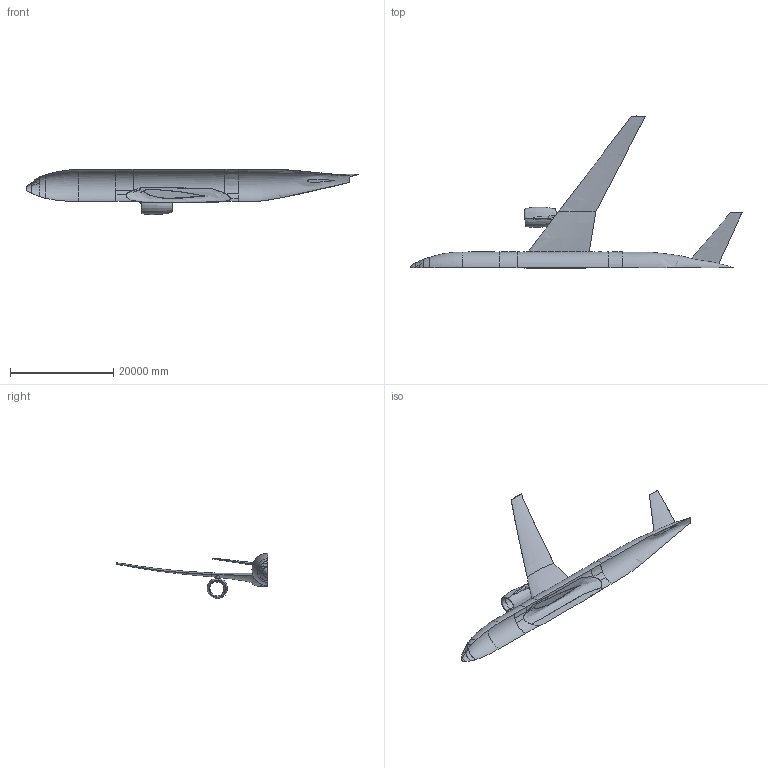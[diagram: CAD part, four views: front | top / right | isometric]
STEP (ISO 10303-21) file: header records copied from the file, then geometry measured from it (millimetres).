
FILE_DESCRIPTION(/* description */ (''),/* implementation_level */ '2;1');
FILE_NAME(/* name */ 'DPW4_wbt_ih+0_n+p_v04.stp',/* time_stamp */ '2013-05-16T13:36:42-07:00',/* author */ (''),/* organization */ (''),/* preprocessor_version */ 'ST-DEVELOPER v11',/* originating_system */ 'SIEMENS UGS NX 6.0',/* authorisation */ '');
FILE_SCHEMA (('AUTOMOTIVE_DESIGN { 1 0 10303 214 1 1 1 1 }'));
Products named in the file (1): a069C2A8wda9
Bounding box: 64362.38 x 29459.6 x 8766.22 mm (x, y, z)
Surface area: 1122117224.8 mm2 (no closed solid volume)
Topology: 0 solids, 61 shells, 61 faces, 446 edges, 439 vertices
Faces by surface type: bspline 59, plane 2
Entity records: 551342 total; most frequent: CARTESIAN_POINT 548705, ORIENTED_EDGE 439, VERTEX_POINT 439, EDGE_CURVE 439, B_SPLINE_CURVE_WITH_KNOTS 421, PRESENTATION_STYLE_ASSIGNMENT 63, SURFACE_STYLE_USAGE 63, SURFACE_SIDE_STYLE 63
